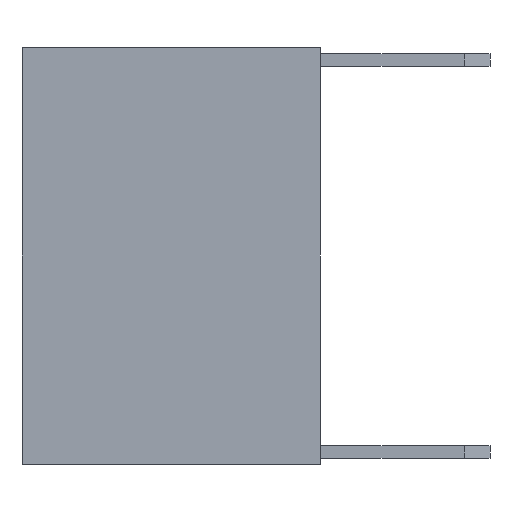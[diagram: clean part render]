
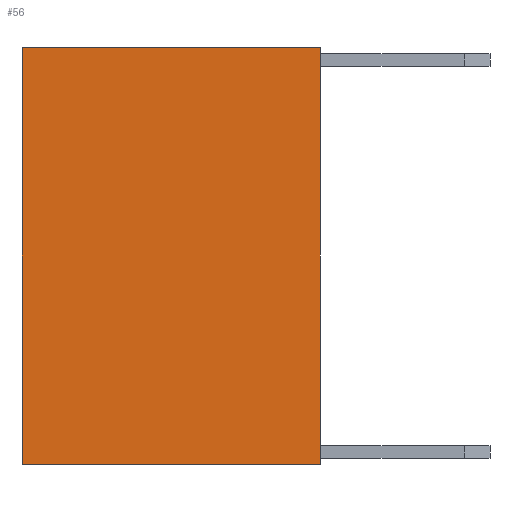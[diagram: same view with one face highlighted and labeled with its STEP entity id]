
A CAD part, left-side view. The second image highlights one B-rep face of the part: STEP entity #56.
In plain terms, the highlighted planar face has unit normal (-1, 0, 0).
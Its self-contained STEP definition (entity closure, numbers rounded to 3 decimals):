
#56=ADVANCED_FACE('',(#356),#206,.T.);
#206=PLANE('',#2725);
#356=FACE_OUTER_BOUND('',#514,.T.);
#514=EDGE_LOOP('',(#738,#739,#740,#741));
#738=ORIENTED_EDGE('',*,*,#1640,.T.);
#739=ORIENTED_EDGE('',*,*,#1680,.T.);
#740=ORIENTED_EDGE('',*,*,#1693,.F.);
#741=ORIENTED_EDGE('',*,*,#1694,.T.);
#1408=VERTEX_POINT('',#3567);
#1409=VERTEX_POINT('',#3569);
#1447=VERTEX_POINT('',#3647);
#1456=VERTEX_POINT('',#3672);
#1640=EDGE_CURVE('',#1409,#1408,#2004,.T.);
#1680=EDGE_CURVE('',#1408,#1447,#2044,.T.);
#1693=EDGE_CURVE('',#1456,#1447,#2057,.T.);
#1694=EDGE_CURVE('',#1456,#1409,#2058,.T.);
#2004=LINE('',#3568,#2368);
#2044=LINE('',#3648,#2408);
#2057=LINE('',#3671,#2421);
#2058=LINE('',#3673,#2422);
#2368=VECTOR('',#2891,1.);
#2408=VECTOR('',#2933,1.);
#2421=VECTOR('',#2950,1.);
#2422=VECTOR('',#2951,1.);
#2725=AXIS2_PLACEMENT_3D('',#3674,#2952,#2953);
#2891=DIRECTION('',(0.,0.,1.));
#2933=DIRECTION('',(0.,1.,0.));
#2950=DIRECTION('',(0.,0.,1.));
#2951=DIRECTION('',(0.,-1.,0.));
#2952=DIRECTION('',(-1.,0.,0.));
#2953=DIRECTION('',(0.,0.,1.));
#3567=CARTESIAN_POINT('',(0.,0.,8.1));
#3568=CARTESIAN_POINT('',(0.,0.,0.));
#3569=CARTESIAN_POINT('',(0.,0.,0.));
#3647=CARTESIAN_POINT('',(0.,5.8,8.1));
#3648=CARTESIAN_POINT('',(0.,2.9,8.1));
#3671=CARTESIAN_POINT('',(0.,5.8,0.));
#3672=CARTESIAN_POINT('',(0.,5.8,0.));
#3673=CARTESIAN_POINT('',(0.,2.9,0.));
#3674=CARTESIAN_POINT('',(0.,2.9,0.));
